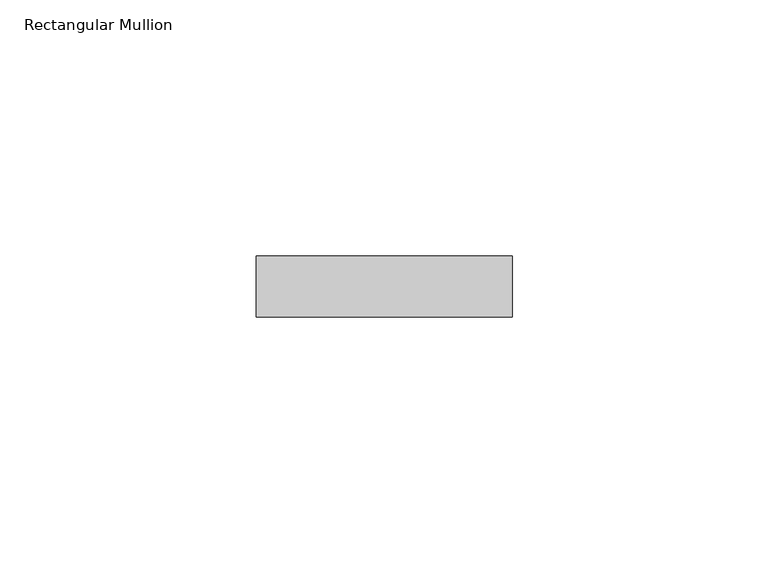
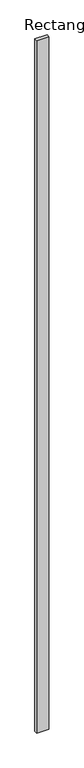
"""IFC4 building model written with IfcOpenShell, lengths in millimetres: member geometry, Rectangular Mullion : RSen_21_CWM_support profile - 50x12 - left_gen_duco projects."""

from ifc_helpers import new_model, si_unit, frame, origin, place, context, project, spatial, polyline, outline, extrude, source, transform, mapped, element, save


def rectangular_mullion_bbbcbd30(model_context):
    return source(origin(), model_context, "Body", "SweptSolid", [
        extrude(outline(polyline([(-50.0, 1.0), (-50.0, -11.0), (-100.0, -11.0), (-100.0, 1.0), (-50.0, 1.0)])), frame((0.0, 0.0, -3000.0), z_axis=(0.0, 0.0, 1.0), x_axis=(1.0, 0.0, 0.0)), (0.0, 0.0, 1.0), 3000.0),
    ])


if __name__ == "__main__":
    model = new_model("IFC4")
    model_context = context("Model", 3, world=origin())
    ifc_project = project(units=[si_unit("LENGTHUNIT", "METRE", prefix="MILLI")], contexts=[model_context])
    site = spatial("IfcSite", under=ifc_project)
    building = spatial("IfcBuilding", under=site)
    placement = place(None, origin())
    rectangular_mullion_shape = rectangular_mullion_bbbcbd30(model_context)
    element("IfcMember", 1, ObjectType="Rectangular Mullion : RSen_21_CWM_support profile - 50x12 - left_gen_duco projects", at=placement, inside=building, context=model_context, shape_type="MappedRepresentation", body=[
        mapped(rectangular_mullion_shape, transform((0.0, 0.0, 0.0), x_axis=(1.0, 0.0, 0.0), y_axis=(0.0, 1.0, 0.0), z_axis=(0.0, 0.0, 1.0))),
    ])
    save(model, "model.ifc")
